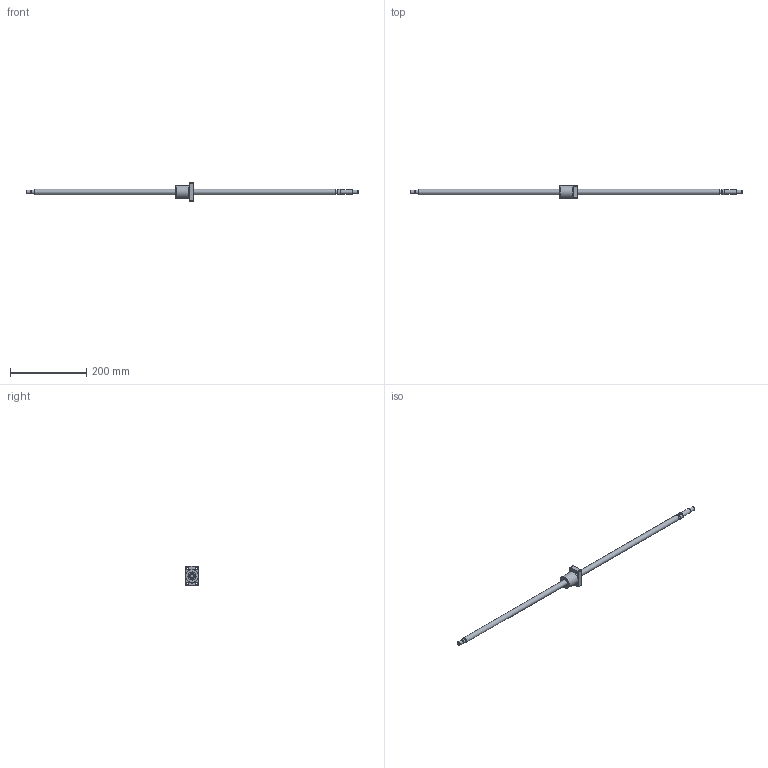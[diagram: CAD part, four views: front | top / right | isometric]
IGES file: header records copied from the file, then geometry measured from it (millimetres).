
Start section: Data from Parasolid IGES Translator 26.0.171, Copyright(c) 2006 Siemens PLM Software. All Rights Reserved.
Global section: file name: BNK1408-2.5RRG0+871LC5Y(417.50).igs; native system: By Siemens PLM Incorporated; preprocessor: XPlus GENERIC/IGES 26.0.171; author: Noname; organization: Noname; date: 20240709.091808; units: millimetre
Bounding box: 871 x 34 x 50 mm (x, y, z)
Surface area: 49954.9 mm2 (no closed solid volume)
Topology: 0 solids, 0 shells, 74 faces, 325 edges, 281 vertices
Faces by surface type: revolution 46, extrusion 28
